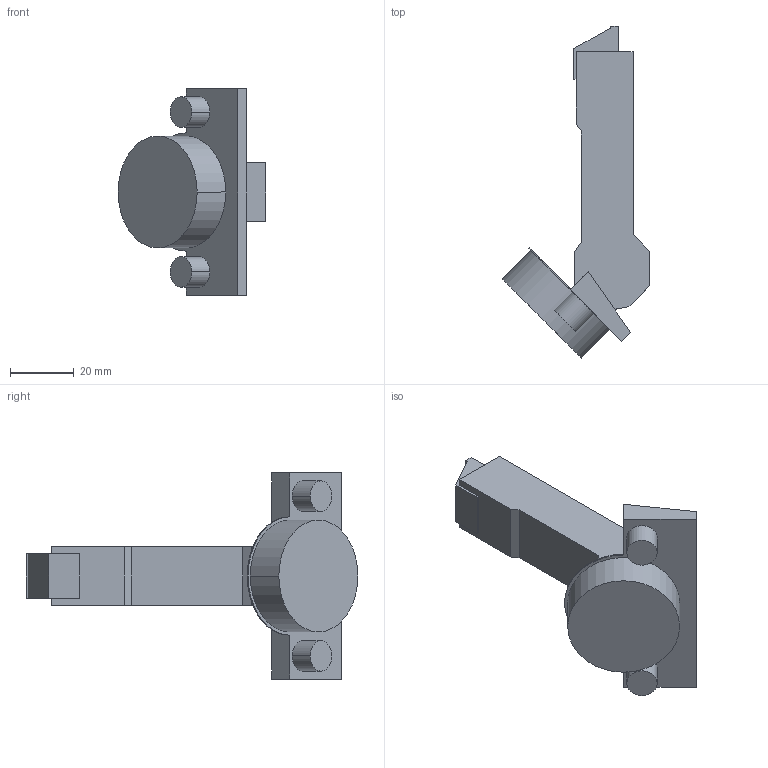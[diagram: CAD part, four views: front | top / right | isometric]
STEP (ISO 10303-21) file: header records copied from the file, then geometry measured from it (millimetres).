
FILE_DESCRIPTION (( 'STEP AP214' ), '1' );
FILE_NAME ('Scharnier TS Impresso 110°_+45° HS_BB, aufliegend.step', '2010-12-13T10:21:02', ( 'grass' ), ( '' ), 'SwSTEP 2.0', 'SolidWorks 2010', '' );
FILE_SCHEMA (( 'AUTOMOTIVE_DESIGN' ));
Length unit declared in the file: millimetre
Products named in the file (1): Scharnier TS Impresso 110°_+45° HS_BB, aufliegend
Bounding box: 46.27 x 103.84 x 64.5 mm (x, y, z)
Volume: 48310.9 mm3; surface area: 13168 mm2
Topology: 1 solids, 3 shells, 58 faces, 138 edges, 92 vertices
Faces by surface type: plane 41, cylinder 17
Entity records: 1706 total; most frequent: DIRECTION 290, CARTESIAN_POINT 289, ORIENTED_EDGE 276, EDGE_CURVE 138, VECTOR 104, LINE 104, AXIS2_PLACEMENT_3D 93, VERTEX_POINT 92
